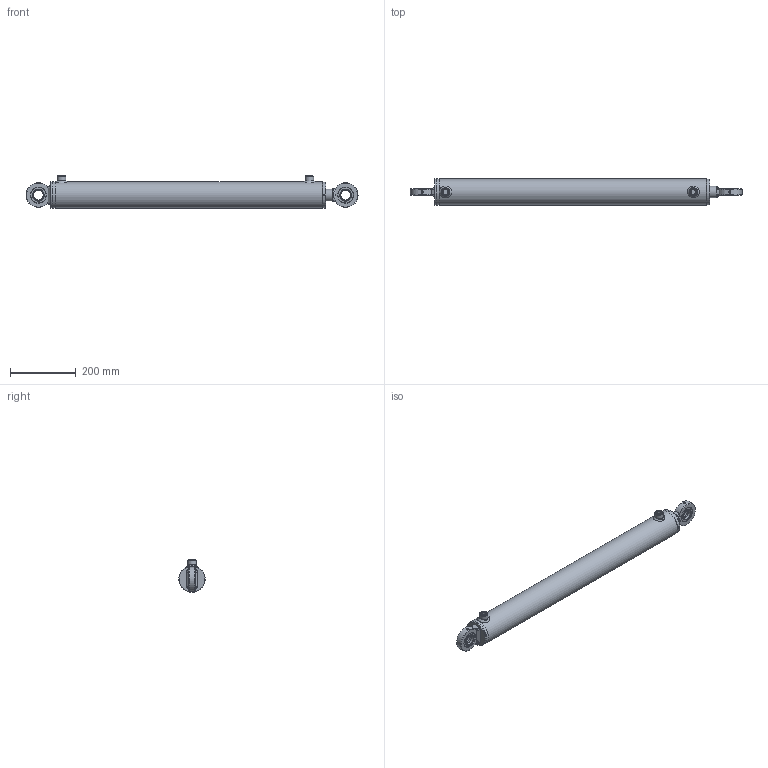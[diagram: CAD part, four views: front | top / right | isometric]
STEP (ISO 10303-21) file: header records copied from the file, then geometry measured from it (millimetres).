
FILE_DESCRIPTION( ( 'Unknown' ), '1' );
FILE_NAME( 'E:/LIBRERIA_3d/CILINDRI/HMC/HMC4350700.stp', 'Unknown', ( 'Unknown' ), ( 'Unknown' ), 'PSStep 17.0.49', 'Unknown', ' ' );
FILE_SCHEMA( ( 'AUTOMOTIVE_DESIGN { 1 0 10303 214 1 1 1 1 }' ) );
Length unit declared in the file: millimetre
Products named in the file (27): STL4500700-oa6; Saldatura d'angolo 1-oa4; FTM4500800-oa5; CBSC220600; CT00070020; CG08007035; CAGEG07504730; CAGE075047; CGE0300000; HM04350700; Saldatura con preparazione 1-oa2; Saldatura d'angolo 1-oa3; CF00070080; CBS0600000; APG0600000; CDA0002015; SBL3530700; Assem1; Saldatura d'angolo 1-oa0; Saldatura d'angolo 2-oa1
Assembly tree (20 placements, depth 4):
  Saldatura d'angolo 1-oa4
  Saldatura d'angolo 1-oa4
  Saldatura d'angolo 1-oa3
  Saldatura d'angolo 1-oa3
  Assem1
    CAGEG07504730  x2
      CAGE075047
      CGE0300000
    HM04350700
      Saldatura con preparazione 1-oa2
      Saldatura con preparazione 1-oa2
      CF00070080
      CBS0600000
      APG0600000  x2
      CDA0002015
      SBL3530700
      CG08007035
        CG08007035
      CT00070020
        CT00070020
      STL4500700-oa6
        FTM4500800-oa5
        CBSC220600
Bounding box: 1010 x 80 x 99 mm (x, y, z)
Volume: 2266633.6 mm3; surface area: 627255.2 mm2
Topology: 24 solids, 24 shells, 407 faces, 909 edges, 495 vertices
Faces by surface type: bspline 158, plane 82, cylinder 79, cone 47, torus 37, sphere 4
Full cylindrical faces by diameter (mm): 2.5 x4, 4.25 x1, 5 x4, 6 x2, 7 x2, 14.95 x2, 16 x2, 16.6 x2, 19.4 x1, 20 x5, 22 x2, 24.5 x1, 26 x2, 30 x5, 35 x4, 37 x1, 38 x1, 43.6 x1, 45 x3, 47 x6, 50 x1, 64.18 x2, 65 x1, 68.34 x2, 69.9 x1, 70 x1, 70.3 x1, 70.5 x1, 70.6 x1, 71 x1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
Entity records: 17855 total; most frequent: CARTESIAN_POINT 9009, ORIENTED_EDGE 1088, DIRECTION 896, EDGE_LOOP 568, EDGE_CURVE 544, FACE_OUTER_BOUND 476, AXIS2_PLACEMENT_3D 434, VERTEX_POINT 387
